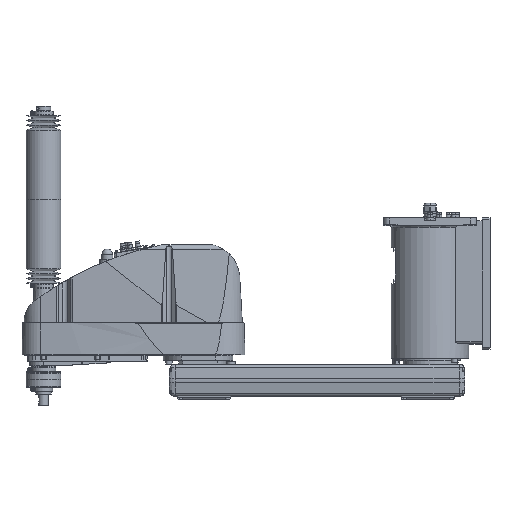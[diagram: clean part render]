
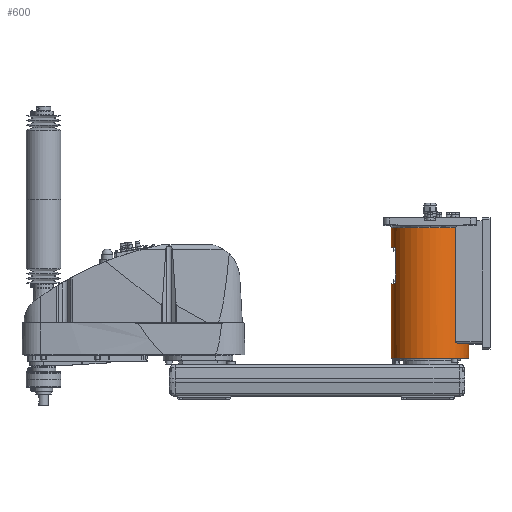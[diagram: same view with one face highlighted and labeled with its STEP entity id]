
A CAD part, top view. The second image highlights one B-rep face of the part: STEP entity #600.
In plain terms, the highlighted cylindrical face has radius 100 mm (diameter 200 mm), a partial arc.
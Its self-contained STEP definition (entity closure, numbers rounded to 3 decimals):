
#600 = ADVANCED_FACE( '', ( #2876 ), #2877, .T. );
#2876 = FACE_OUTER_BOUND( '', #7393, .T. );
#2877 = CYLINDRICAL_SURFACE( '', #7394, 100. );
#7393 = EDGE_LOOP( '', ( #12884, #12885, #12886, #12887, #12888, #12889, #12890, #12891, #12892, #12893, #12894, #12895, #12896, #12897, #12898, #12899 ) );
#7394 = AXIS2_PLACEMENT_3D( '', #12900, #12901, #12902 );
#12884 = ORIENTED_EDGE( '', *, *, #28430, .T. );
#12885 = ORIENTED_EDGE( '', *, *, #28538, .T. );
#12886 = ORIENTED_EDGE( '', *, *, #28529, .T. );
#12887 = ORIENTED_EDGE( '', *, *, #28525, .T. );
#12888 = ORIENTED_EDGE( '', *, *, #28532, .T. );
#12889 = ORIENTED_EDGE( '', *, *, #28537, .T. );
#12890 = ORIENTED_EDGE( '', *, *, #28541, .T. );
#12891 = ORIENTED_EDGE( '', *, *, #28542, .T. );
#12892 = ORIENTED_EDGE( '', *, *, #27861, .F. );
#12893 = ORIENTED_EDGE( '', *, *, #27866, .F. );
#12894 = ORIENTED_EDGE( '', *, *, #28436, .T. );
#12895 = ORIENTED_EDGE( '', *, *, #28543, .T. );
#12896 = ORIENTED_EDGE( '', *, *, #28544, .T. );
#12897 = ORIENTED_EDGE( '', *, *, #28545, .T. );
#12898 = ORIENTED_EDGE( '', *, *, #28432, .T. );
#12899 = ORIENTED_EDGE( '', *, *, #28546, .T. );
#12900 = CARTESIAN_POINT( '', ( 0., 194., 0. ) );
#12901 = DIRECTION( '', ( 0., -1., 0. ) );
#12902 = DIRECTION( '', ( 1., 0., 0. ) );
#27861 = EDGE_CURVE( '', #32902, #32904, #32905, .T. );
#27866 = EDGE_CURVE( '', #32912, #32902, #32914, .T. );
#28430 = EDGE_CURVE( '', #34014, #34015, #34016, .T. );
#28432 = EDGE_CURVE( '', #34019, #34017, #34020, .T. );
#28436 = EDGE_CURVE( '', #32912, #34025, #34027, .T. );
#28525 = EDGE_CURVE( '', #34173, #34174, #34175, .T. );
#28529 = EDGE_CURVE( '', #34181, #34173, #34182, .T. );
#28532 = EDGE_CURVE( '', #34174, #34186, #34187, .T. );
#28537 = EDGE_CURVE( '', #34186, #34193, #34195, .T. );
#28538 = EDGE_CURVE( '', #34015, #34181, #34196, .T. );
#28541 = EDGE_CURVE( '', #34193, #34200, #34201, .T. );
#28542 = EDGE_CURVE( '', #34200, #32904, #34202, .T. );
#28543 = EDGE_CURVE( '', #34025, #34203, #34204, .T. );
#28544 = EDGE_CURVE( '', #34203, #34205, #34206, .T. );
#28545 = EDGE_CURVE( '', #34205, #34019, #34207, .T. );
#28546 = EDGE_CURVE( '', #34017, #34014, #34208, .T. );
#32902 = VERTEX_POINT( '', #41216 );
#32904 = VERTEX_POINT( '', #41218 );
#32905 = CIRCLE( '', #41219, 100. );
#32912 = VERTEX_POINT( '', #41253 );
#32914 = CIRCLE( '', #41255, 100. );
#34014 = VERTEX_POINT( '', #42641 );
#34015 = VERTEX_POINT( '', #42642 );
#34016 = LINE( '', #42643, #42644 );
#34017 = VERTEX_POINT( '', #42645 );
#34019 = VERTEX_POINT( '', #42647 );
#34020 = LINE( '', #42648, #42649 );
#34025 = VERTEX_POINT( '', #42655 );
#34027 = LINE( '', #42657, #42658 );
#34173 = VERTEX_POINT( '', #42880 );
#34174 = VERTEX_POINT( '', #42881 );
#34175 = CIRCLE( '', #42882, 100. );
#34181 = VERTEX_POINT( '', #42891 );
#34182 = LINE( '', #42892, #42893 );
#34186 = VERTEX_POINT( '', #42899 );
#34187 = LINE( '', #42900, #42901 );
#34193 = VERTEX_POINT( '', #42910 );
#34195 = CIRCLE( '', #42913, 100. );
#34196 = CIRCLE( '', #42914, 100. );
#34200 = VERTEX_POINT( '', #42920 );
#34201 = B_SPLINE_CURVE_WITH_KNOTS( '', 3, ( #42921, #42922, #42923, #42924, #42925, #42926, #42927, #42928, #42929, #42930, #42931, #42932, #42933, #42934, #42935, #42936, #42937, #42938 ), .UNSPECIFIED., .F., .F., ( 4, 2, 2, 2, 2, 2, 2, 2, 4 ), ( 7.241, 8.361, 9.482, 10.602, 11.722, 12.472, 13.222, 13.972, 14.722 ), .UNSPECIFIED. );
#34202 = LINE( '', #42939, #42940 );
#34203 = VERTEX_POINT( '', #42941 );
#34204 = CIRCLE( '', #42942, 100. );
#34205 = VERTEX_POINT( '', #42943 );
#34206 = LINE( '', #42944, #42945 );
#34207 = CIRCLE( '', #42946, 100. );
#34208 = CIRCLE( '', #42947, 100. );
#41216 = CARTESIAN_POINT( '', ( 0., 363., 100. ) );
#41218 = CARTESIAN_POINT( '', ( 66.144, 363., 75. ) );
#41219 = AXIS2_PLACEMENT_3D( '', #55159, #55160, #55161 );
#41253 = CARTESIAN_POINT( '', ( -100., 363., 0. ) );
#41255 = AXIS2_PLACEMENT_3D( '', #55171, #55172, #55173 );
#42641 = CARTESIAN_POINT( '', ( 100., 25., 0. ) );
#42642 = CARTESIAN_POINT( '', ( 100., 64., 0. ) );
#42643 = CARTESIAN_POINT( '', ( 100., 194., 0. ) );
#42644 = VECTOR( '', #56291, 1. );
#42645 = CARTESIAN_POINT( '', ( -100., 25., 0. ) );
#42647 = CARTESIAN_POINT( '', ( -100., 218.3, 0. ) );
#42648 = CARTESIAN_POINT( '', ( -100., 194., 0. ) );
#42649 = VECTOR( '', #56295, 1. );
#42655 = CARTESIAN_POINT( '', ( -100., 311.3, 0. ) );
#42657 = CARTESIAN_POINT( '', ( -100., 194., 0. ) );
#42658 = VECTOR( '', #56303, 1. );
#42880 = CARTESIAN_POINT( '', ( 89.303, 62., 45. ) );
#42881 = CARTESIAN_POINT( '', ( 75.993, 62., 65. ) );
#42882 = AXIS2_PLACEMENT_3D( '', #56447, #56448, #56449 );
#42891 = CARTESIAN_POINT( '', ( 89.303, 64., 45. ) );
#42892 = CARTESIAN_POINT( '', ( 89.303, 63., 45. ) );
#42893 = VECTOR( '', #56453, 1. );
#42899 = CARTESIAN_POINT( '', ( 75.993, 64., 65. ) );
#42900 = CARTESIAN_POINT( '', ( 75.993, 63., 65. ) );
#42901 = VECTOR( '', #56456, 1. );
#42910 = CARTESIAN_POINT( '', ( 70.42, 64., 71. ) );
#42913 = AXIS2_PLACEMENT_3D( '', #56461, #56462, #56463 );
#42914 = AXIS2_PLACEMENT_3D( '', #56464, #56465, #56466 );
#42920 = CARTESIAN_POINT( '', ( 66.144, 68., 75. ) );
#42921 = CARTESIAN_POINT( '', ( 70.42, 64., 71. ) );
#42922 = CARTESIAN_POINT( '', ( 70.155, 64., 71.263 ) );
#42923 = CARTESIAN_POINT( '', ( 69.877, 64.026, 71.535 ) );
#42924 = CARTESIAN_POINT( '', ( 69.316, 64.139, 72.08 ) );
#42925 = CARTESIAN_POINT( '', ( 69.031, 64.224, 72.352 ) );
#42926 = CARTESIAN_POINT( '', ( 68.475, 64.457, 72.879 ) );
#42927 = CARTESIAN_POINT( '', ( 68.203, 64.604, 73.134 ) );
#42928 = CARTESIAN_POINT( '', ( 67.688, 64.954, 73.61 ) );
#42929 = CARTESIAN_POINT( '', ( 67.446, 65.158, 73.831 ) );
#42930 = CARTESIAN_POINT( '', ( 67.082, 65.542, 74.162 ) );
#42931 = CARTESIAN_POINT( '', ( 66.938, 65.716, 74.292 ) );
#42932 = CARTESIAN_POINT( '', ( 66.674, 66.103, 74.529 ) );
#42933 = CARTESIAN_POINT( '', ( 66.555, 66.315, 74.636 ) );
#42934 = CARTESIAN_POINT( '', ( 66.356, 66.766, 74.812 ) );
#42935 = CARTESIAN_POINT( '', ( 66.277, 67.005, 74.882 ) );
#42936 = CARTESIAN_POINT( '', ( 66.171, 67.497, 74.976 ) );
#42937 = CARTESIAN_POINT( '', ( 66.144, 67.75, 75. ) );
#42938 = CARTESIAN_POINT( '', ( 66.144, 68., 75. ) );
#42939 = CARTESIAN_POINT( '', ( 66.144, 215.5, 75. ) );
#42940 = VECTOR( '', #56469, 1. );
#42941 = CARTESIAN_POINT( '', ( -88., 311.3, 47.497 ) );
#42942 = AXIS2_PLACEMENT_3D( '', #56470, #56471, #56472 );
#42943 = CARTESIAN_POINT( '', ( -88., 218.3, 47.497 ) );
#42944 = CARTESIAN_POINT( '', ( -88., 264.8, 47.497 ) );
#42945 = VECTOR( '', #56473, 1. );
#42946 = AXIS2_PLACEMENT_3D( '', #56474, #56475, #56476 );
#42947 = AXIS2_PLACEMENT_3D( '', #56477, #56478, #56479 );
#55159 = CARTESIAN_POINT( '', ( 0., 363., 0. ) );
#55160 = DIRECTION( '', ( 0., 1., 0. ) );
#55161 = DIRECTION( '', ( 1., 0., 0. ) );
#55171 = CARTESIAN_POINT( '', ( 0., 363., 0. ) );
#55172 = DIRECTION( '', ( 0., 1., 0. ) );
#55173 = DIRECTION( '', ( 1., 0., 0. ) );
#56291 = DIRECTION( '', ( 0., 1., 0. ) );
#56295 = DIRECTION( '', ( 0., -1., 0. ) );
#56303 = DIRECTION( '', ( 0., -1., 0. ) );
#56447 = CARTESIAN_POINT( '', ( 0., 62., 0. ) );
#56448 = DIRECTION( '', ( 0., -1., 0. ) );
#56449 = DIRECTION( '', ( 1., 0., 0. ) );
#56453 = DIRECTION( '', ( 0., -1., 0. ) );
#56456 = DIRECTION( '', ( 0., 1., 0. ) );
#56461 = CARTESIAN_POINT( '', ( 0., 64., 0. ) );
#56462 = DIRECTION( '', ( 0., -1., 0. ) );
#56463 = DIRECTION( '', ( 1., 0., 0. ) );
#56464 = CARTESIAN_POINT( '', ( 0., 64., 0. ) );
#56465 = DIRECTION( '', ( 0., -1., 0. ) );
#56466 = DIRECTION( '', ( 1., 0., 0. ) );
#56469 = DIRECTION( '', ( 0., 1., 0. ) );
#56470 = CARTESIAN_POINT( '', ( 0., 311.3, 0. ) );
#56471 = DIRECTION( '', ( 0., 1., 0. ) );
#56472 = DIRECTION( '', ( 1., 0., 0. ) );
#56473 = DIRECTION( '', ( 0., -1., 0. ) );
#56474 = CARTESIAN_POINT( '', ( 0., 218.3, 0. ) );
#56475 = DIRECTION( '', ( 0., -1., 0. ) );
#56476 = DIRECTION( '', ( 1., 0., 0. ) );
#56477 = CARTESIAN_POINT( '', ( 0., 25., 0. ) );
#56478 = DIRECTION( '', ( 0., 1., 0. ) );
#56479 = DIRECTION( '', ( 1., 0., 0. ) );
